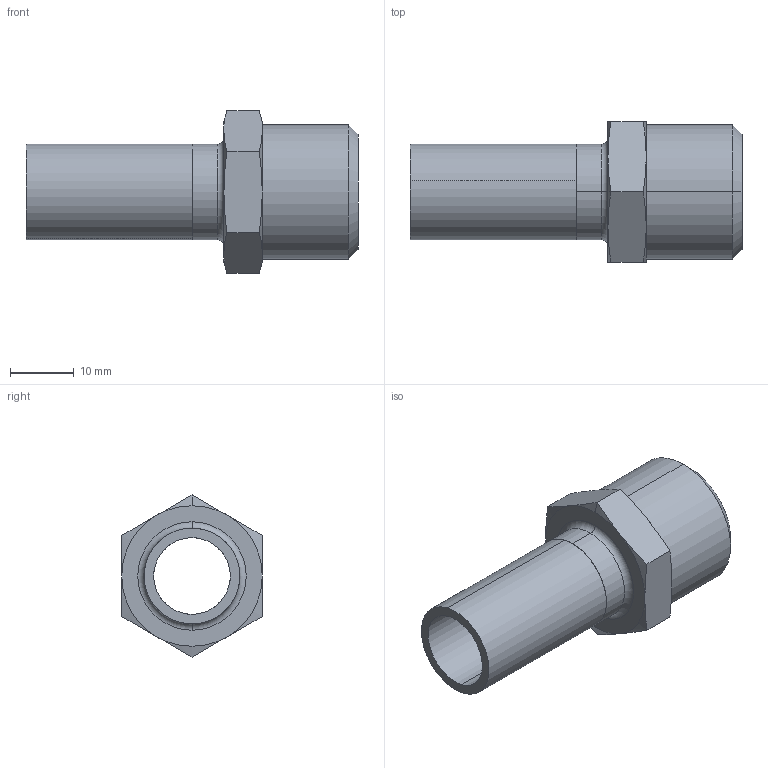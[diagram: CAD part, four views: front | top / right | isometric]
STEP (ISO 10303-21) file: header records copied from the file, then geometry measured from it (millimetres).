
FILE_DESCRIPTION (( 'STEP AP203' ), '1' );
FILE_NAME ('GDA6361.STEP', '2019-07-03T06:04:32', ( '' ), ( '' ), 'SwSTEP 2.0', 'SolidWorks 2015', '' );
FILE_SCHEMA (( 'CONFIG_CONTROL_DESIGN' ));
Length unit declared in the file: millimetre
Products named in the file (3): OD15｡ﾁ0.5; GDA6361; 眻奪15
Assembly tree (2 placements, depth 2):
  GDA6361
    OD15｡ﾁ0.5
    眻奪15
Bounding box: 52 x 22 x 25.4 mm (x, y, z)
Volume: 5533.4 mm3; surface area: 5689.6 mm2
Topology: 2 solids, 2 shells, 44 faces, 92 edges, 54 vertices
Faces by surface type: cone 18, cylinder 12, plane 12, torus 2
Entity records: 1549 total; most frequent: CARTESIAN_POINT 315, DIRECTION 210, ORIENTED_EDGE 184, AXIS2_PLACEMENT_3D 93, EDGE_CURVE 92, VERTEX_POINT 54, EDGE_LOOP 50, CIRCLE 44
